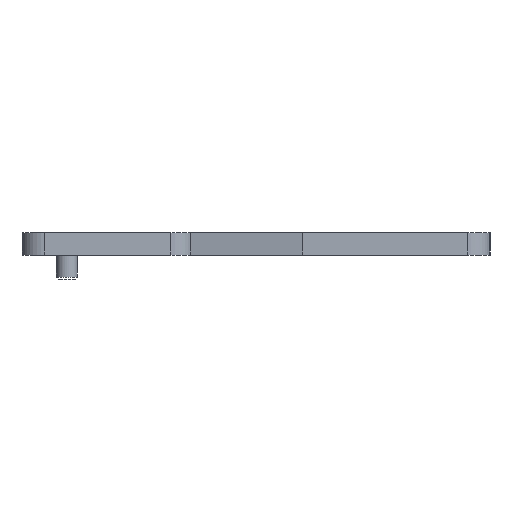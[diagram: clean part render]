
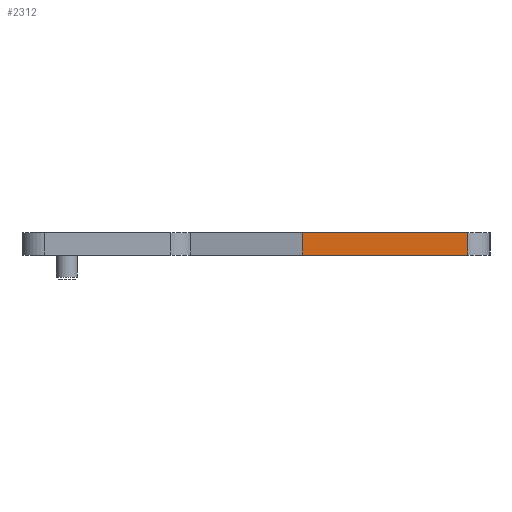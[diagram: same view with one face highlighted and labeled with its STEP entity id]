
A CAD part, left-side view. The second image highlights one B-rep face of the part: STEP entity #2312.
In plain terms, the highlighted planar face has unit normal (-1, 0, 0).
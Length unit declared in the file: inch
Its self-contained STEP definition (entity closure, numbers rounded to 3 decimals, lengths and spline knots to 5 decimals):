
#2254=CARTESIAN_POINT('',(-4.04873,0.30103,0.12));
#2255=VERTEX_POINT('',#2254);
#2263=CARTESIAN_POINT('',(-4.04873,0.30103,0.0));
#2264=VERTEX_POINT('',#2263);
#2265=CARTESIAN_POINT('',(-4.04873,0.30103,0.0));
#2266=DIRECTION('',(0.0,0.0,1.0));
#2267=VECTOR('',#2266,0.12);
#2268=LINE('',#2265,#2267);
#2269=EDGE_CURVE('',#2264,#2255,#2268,.T.);
#2282=CARTESIAN_POINT('',(-4.04873,0.30103,0.0));
#2283=DIRECTION('',(-1.0,0.0,0.0));
#2284=DIRECTION('',(0.0,0.0,1.0));
#2285=AXIS2_PLACEMENT_3D('',#2282,#2283,#2284);
#2286=PLANE('',#2285);
#2287=CARTESIAN_POINT('',(-4.04873,1.18103,0.12));
#2288=VERTEX_POINT('',#2287);
#2289=CARTESIAN_POINT('',(-4.04873,0.30103,0.12));
#2290=DIRECTION('',(0.0,1.0,0.0));
#2291=VECTOR('',#2290,0.88);
#2292=LINE('',#2289,#2291);
#2293=EDGE_CURVE('',#2255,#2288,#2292,.T.);
#2294=ORIENTED_EDGE('',*,*,#2293,.T.);
#2295=CARTESIAN_POINT('',(-4.04873,1.18103,0.0));
#2296=VERTEX_POINT('',#2295);
#2297=CARTESIAN_POINT('',(-4.04873,1.18103,0.0));
#2298=DIRECTION('',(0.0,0.0,1.0));
#2299=VECTOR('',#2298,0.12);
#2300=LINE('',#2297,#2299);
#2301=EDGE_CURVE('',#2296,#2288,#2300,.T.);
#2302=ORIENTED_EDGE('',*,*,#2301,.F.);
#2303=CARTESIAN_POINT('',(-4.04873,0.30103,0.0));
#2304=DIRECTION('',(0.0,1.0,0.0));
#2305=VECTOR('',#2304,0.88);
#2306=LINE('',#2303,#2305);
#2307=EDGE_CURVE('',#2264,#2296,#2306,.T.);
#2308=ORIENTED_EDGE('',*,*,#2307,.F.);
#2309=ORIENTED_EDGE('',*,*,#2269,.T.);
#2310=EDGE_LOOP('',(#2294,#2302,#2308,#2309));
#2311=FACE_OUTER_BOUND('',#2310,.T.);
#2312=ADVANCED_FACE('',(#2311),#2286,.T.);
